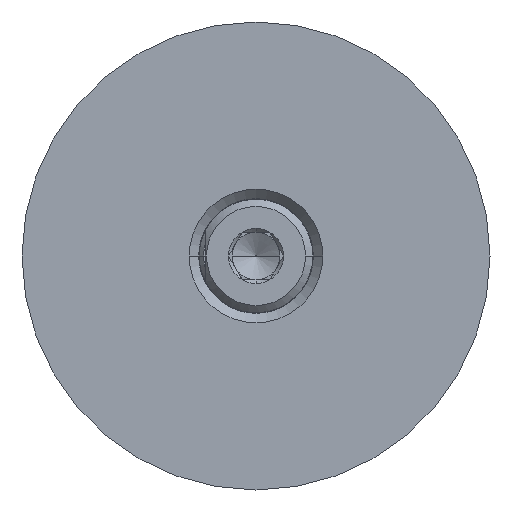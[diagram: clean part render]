
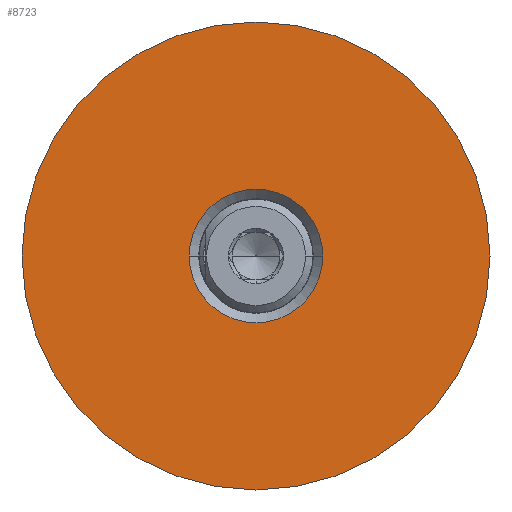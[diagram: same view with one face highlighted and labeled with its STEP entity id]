
A CAD part, left-side view. The second image highlights one B-rep face of the part: STEP entity #8723.
In plain terms, the highlighted planar face has unit normal (-1, 0, 0).
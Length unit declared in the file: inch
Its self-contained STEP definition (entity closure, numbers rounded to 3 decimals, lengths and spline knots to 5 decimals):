
#8531=CARTESIAN_POINT('',(-0.61,-0.2185,2.));
#8532=VERTEX_POINT('',#8531);
#8540=CARTESIAN_POINT('',(-0.61,0.2185,2.));
#8541=VERTEX_POINT('',#8540);
#8548=CARTESIAN_POINT('',(-0.61,0.0,2.));
#8549=DIRECTION('',(-1.0,0.0,0.0));
#8550=DIRECTION('',(0.0,-1.0,0.0));
#8551=AXIS2_PLACEMENT_3D('',#8548,#8549,#8550);
#8552=CIRCLE('',#8551,0.2185);
#8553=EDGE_CURVE('',#8541,#8532,#8552,.T.);
#8565=CARTESIAN_POINT('',(-0.61,-0.765,2.));
#8566=VERTEX_POINT('',#8565);
#8582=CARTESIAN_POINT('',(-0.61,0.765,2.));
#8583=VERTEX_POINT('',#8582);
#8590=CARTESIAN_POINT('',(-0.61,0.0,2.));
#8591=DIRECTION('',(-1.0,0.0,0.0));
#8592=DIRECTION('',(0.0,-1.0,0.0));
#8593=AXIS2_PLACEMENT_3D('',#8590,#8591,#8592);
#8594=CIRCLE('',#8593,0.765);
#8595=EDGE_CURVE('',#8566,#8583,#8594,.T.);
#8692=CARTESIAN_POINT('',(-0.61,0.0,2.));
#8693=DIRECTION('',(-1.0,0.0,0.0));
#8694=DIRECTION('',(0.0,-1.0,0.0));
#8695=AXIS2_PLACEMENT_3D('',#8692,#8693,#8694);
#8696=CIRCLE('',#8695,0.765);
#8697=EDGE_CURVE('',#8583,#8566,#8696,.T.);
#8704=CARTESIAN_POINT('',(-0.61,-0.49175,2.));
#8705=DIRECTION('',(-1.0,0.0,0.0));
#8706=DIRECTION('',(0.0,0.0,1.0));
#8707=AXIS2_PLACEMENT_3D('',#8704,#8705,#8706);
#8708=PLANE('',#8707);
#8709=ORIENTED_EDGE('',*,*,#8595,.T.);
#8710=ORIENTED_EDGE('',*,*,#8697,.T.);
#8711=EDGE_LOOP('',(#8709,#8710));
#8712=FACE_OUTER_BOUND('',#8711,.T.);
#8713=CARTESIAN_POINT('',(-0.61,0.0,2.));
#8714=DIRECTION('',(-1.0,0.0,0.0));
#8715=DIRECTION('',(0.0,-1.0,0.0));
#8716=AXIS2_PLACEMENT_3D('',#8713,#8714,#8715);
#8717=CIRCLE('',#8716,0.2185);
#8718=EDGE_CURVE('',#8532,#8541,#8717,.T.);
#8719=ORIENTED_EDGE('',*,*,#8718,.F.);
#8720=ORIENTED_EDGE('',*,*,#8553,.F.);
#8721=EDGE_LOOP('',(#8719,#8720));
#8722=FACE_BOUND('',#8721,.T.);
#8723=ADVANCED_FACE('',(#8712,#8722),#8708,.T.);
